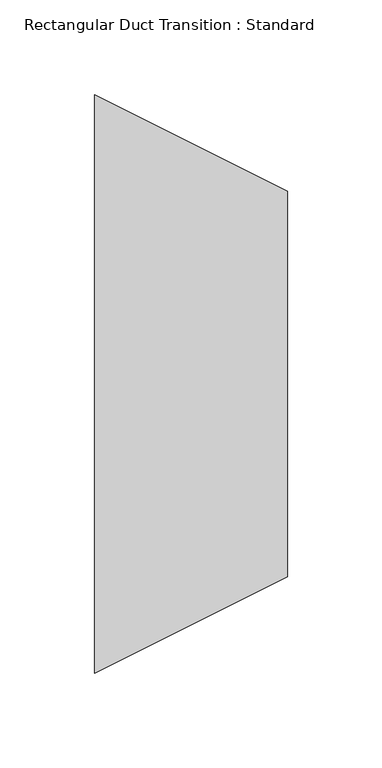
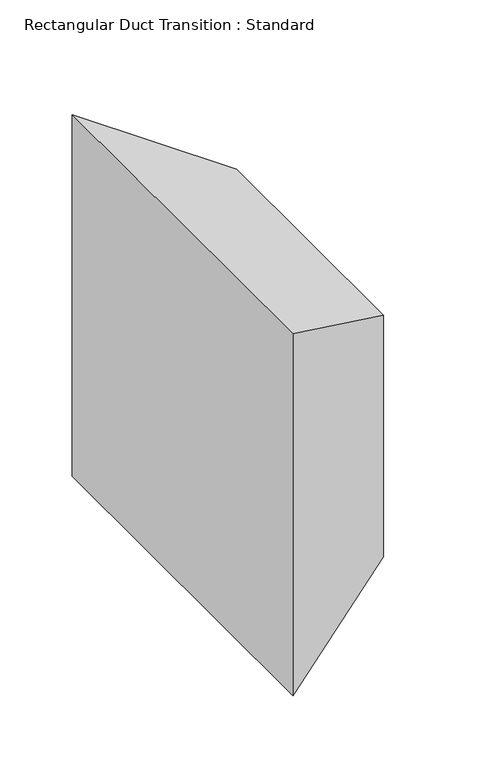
"""IFC4 building model written with IfcOpenShell, lengths in millimetres: duct fitting geometry, Rectangular Duct Transition : Standard."""

from ifc_helpers import new_model, si_unit, origin, place, context, project, spatial, faceted_brep, source, transform, mapped, element, save


def rectangular_duct_transition_standard_67d03cbd(model_context):
    return source(origin(), model_context, "Body", "Brep", [
        faceted_brep([(101.6, -101.6, 101.6), (101.6, -101.6, -101.6), (101.6, 101.6, -101.6), (101.6, 101.6, 101.6), (0.0, -152.4, 152.4), (0.0, 152.4, 152.4), (0.0, 152.4, -152.4), (0.0, -152.4, -152.4)], [[[0, 1, 2, 3]], [[4, 5, 6, 7]], [[4, 7, 1, 0]], [[7, 6, 2, 1]], [[6, 5, 3, 2]], [[5, 4, 0, 3]]]),
        faceted_brep([(101.6, -101.6, 101.6), (101.6, -101.6, -101.6), (101.6, 101.6, -101.6), (101.6, 101.6, 101.6), (0.0, -152.4, 152.4), (0.0, 152.4, 152.4), (0.0, 152.4, -152.4), (0.0, -152.4, -152.4)], [[[0, 1, 2, 3]], [[4, 5, 6, 7]], [[4, 7, 1, 0]], [[7, 6, 2, 1]], [[6, 5, 3, 2]], [[5, 4, 0, 3]]]),
        faceted_brep([(101.6, -101.6, 101.6), (101.6, -101.6, -101.6), (101.6, 101.6, -101.6), (101.6, 101.6, 101.6), (0.0, -152.4, 152.4), (0.0, 152.4, 152.4), (0.0, 152.4, -152.4), (0.0, -152.4, -152.4)], [[[0, 1, 2, 3]], [[4, 5, 6, 7]], [[4, 7, 1, 0]], [[7, 6, 2, 1]], [[6, 5, 3, 2]], [[5, 4, 0, 3]]]),
    ])


if __name__ == "__main__":
    model = new_model("IFC4")
    model_context = context("Model", 3, world=origin())
    ifc_project = project(units=[si_unit("LENGTHUNIT", "METRE", prefix="MILLI")], contexts=[model_context])
    site = spatial("IfcSite", under=ifc_project)
    building = spatial("IfcBuilding", under=site)
    placement = place(None, origin())
    rectangular_duct_transition_standard_shape = rectangular_duct_transition_standard_67d03cbd(model_context)
    element("IfcDuctFitting", 1, ObjectType="Rectangular Duct Transition : Standard", at=placement, inside=building, context=model_context, shape_type="MappedRepresentation", body=[
        mapped(rectangular_duct_transition_standard_shape, transform((0.0, 0.0, 0.0), x_axis=(1.0, 0.0, 0.0), y_axis=(0.0, 1.0, 0.0), z_axis=(0.0, 0.0, 1.0))),
    ])
    save(model, "model.ifc")
